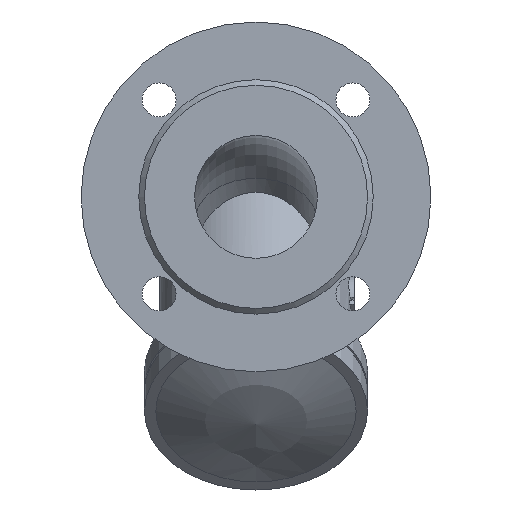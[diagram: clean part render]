
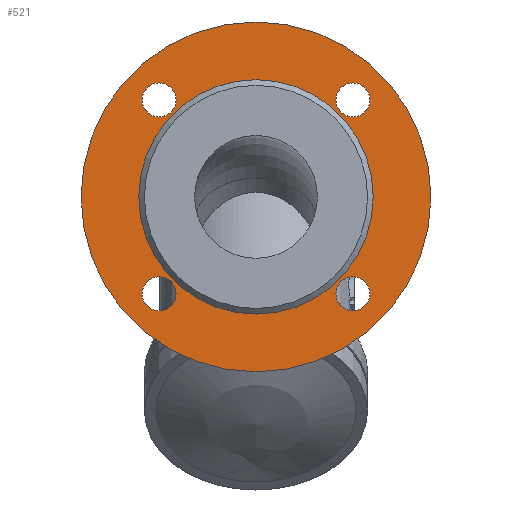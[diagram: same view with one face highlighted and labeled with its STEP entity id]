
A CAD part, front view. The second image highlights one B-rep face of the part: STEP entity #521.
In plain terms, the highlighted planar face has unit normal (0, -1, 0).
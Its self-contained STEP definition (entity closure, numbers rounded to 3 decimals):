
#521=ADVANCED_FACE('',(#1105,#1107,#1109,#1111,#1113,#1115),#1117,.T.);
#1105=FACE_BOUND('',#1106,.T.);
#1106=EDGE_LOOP('',(#1469));
#1107=FACE_BOUND('',#1108,.T.);
#1108=EDGE_LOOP('',(#1470));
#1109=FACE_BOUND('',#1110,.T.);
#1110=EDGE_LOOP('',(#1471));
#1111=FACE_BOUND('',#1112,.T.);
#1112=EDGE_LOOP('',(#1472));
#1113=FACE_BOUND('',#1114,.T.);
#1114=EDGE_LOOP('',(#1473));
#1115=FACE_BOUND('',#1116,.T.);
#1116=EDGE_LOOP('',(#1474));
#1117=PLANE('',#1118);
#1118=AXIS2_PLACEMENT_3D('',#1119,#1120,#1121);
#1119=CARTESIAN_POINT('',(0.,-142.,0.));
#1120=DIRECTION('',(0.,-1.,0.));
#1121=DIRECTION('',(0.,0.,1.));
#1469=ORIENTED_EDGE('',*,*,#1611,.F.);
#1470=ORIENTED_EDGE('',*,*,#1615,.T.);
#1471=ORIENTED_EDGE('',*,*,#1614,.T.);
#1472=ORIENTED_EDGE('',*,*,#1613,.T.);
#1473=ORIENTED_EDGE('',*,*,#1618,.T.);
#1474=ORIENTED_EDGE('',*,*,#1612,.T.);
#1611=EDGE_CURVE('',#1816,#1816,#1817,.T.);
#1612=EDGE_CURVE('',#1818,#1818,#1819,.F.);
#1613=EDGE_CURVE('',#1820,#1820,#1821,.F.);
#1614=EDGE_CURVE('',#1822,#1822,#1823,.F.);
#1615=EDGE_CURVE('',#1824,#1824,#1825,.F.);
#1618=EDGE_CURVE('',#1830,#1830,#1831,.T.);
#1816=VERTEX_POINT('',#3104);
#1817=CIRCLE('',#3105,92.5);
#1818=VERTEX_POINT('',#3109);
#1819=CIRCLE('',#3110,9.);
#1820=VERTEX_POINT('',#3114);
#1821=CIRCLE('',#3115,9.);
#1822=VERTEX_POINT('',#3119);
#1823=CIRCLE('',#3120,9.);
#1824=VERTEX_POINT('',#3124);
#1825=CIRCLE('',#3125,9.);
#1830=VERTEX_POINT('',#3139);
#1831=CIRCLE('',#3140,62.);
#3104=CARTESIAN_POINT('',(0.,-142.,92.5));
#3105=AXIS2_PLACEMENT_3D('',#3106,#3107,#3108);
#3106=CARTESIAN_POINT('',(0.,-142.,0.));
#3107=DIRECTION('',(0.,1.,0.));
#3108=DIRECTION('',(0.,0.,1.));
#3109=CARTESIAN_POINT('',(-42.265,-142.,51.265));
#3110=AXIS2_PLACEMENT_3D('',#3111,#3112,#3113);
#3111=CARTESIAN_POINT('',(-51.265,-142.,51.265));
#3112=DIRECTION('',(0.,-1.,0.));
#3113=DIRECTION('',(1.,0.,0.));
#3114=CARTESIAN_POINT('',(-51.265,-142.,-42.265));
#3115=AXIS2_PLACEMENT_3D('',#3116,#3117,#3118);
#3116=CARTESIAN_POINT('',(-51.265,-142.,-51.265));
#3117=DIRECTION('',(0.,-1.,0.));
#3118=DIRECTION('',(0.,0.,1.));
#3119=CARTESIAN_POINT('',(42.265,-142.,-51.265));
#3120=AXIS2_PLACEMENT_3D('',#3121,#3122,#3123);
#3121=CARTESIAN_POINT('',(51.265,-142.,-51.265));
#3122=DIRECTION('',(0.,-1.,0.));
#3123=DIRECTION('',(-1.,0.,0.));
#3124=CARTESIAN_POINT('',(51.265,-142.,42.265));
#3125=AXIS2_PLACEMENT_3D('',#3126,#3127,#3128);
#3126=CARTESIAN_POINT('',(51.265,-142.,51.265));
#3127=DIRECTION('',(0.,-1.,0.));
#3128=DIRECTION('',(0.,0.,-1.));
#3139=CARTESIAN_POINT('',(0.,-142.,62.));
#3140=AXIS2_PLACEMENT_3D('',#3141,#3142,#3143);
#3141=CARTESIAN_POINT('',(0.,-142.,0.));
#3142=DIRECTION('',(0.,1.,0.));
#3143=DIRECTION('',(0.,0.,1.));
